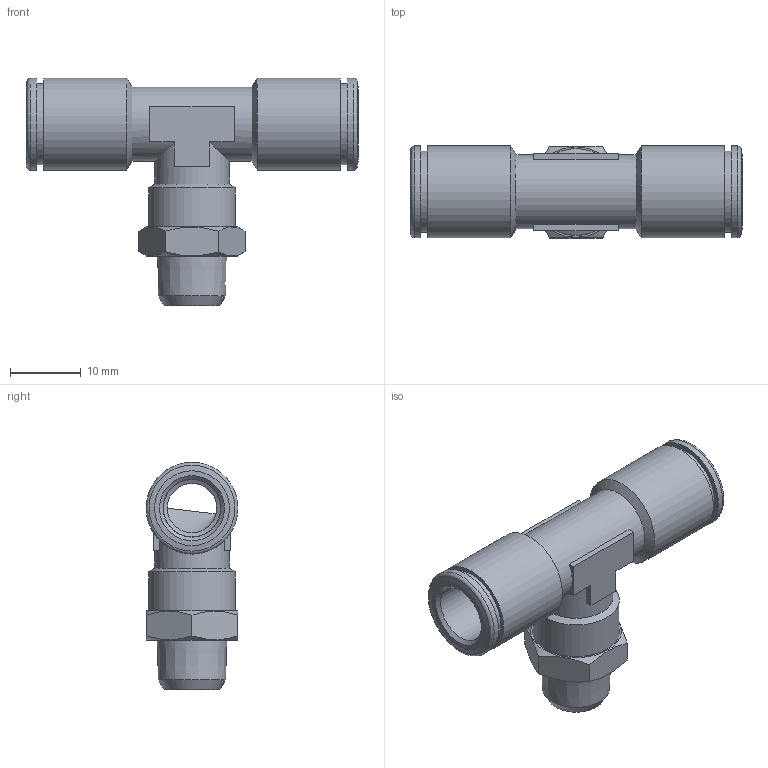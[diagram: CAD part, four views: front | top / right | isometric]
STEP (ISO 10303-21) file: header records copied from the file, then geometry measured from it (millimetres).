
FILE_DESCRIPTION(/* description */ (''),/* implementation_level */ '2;1');
FILE_NAME(/* name */ '202055-ES_STX020K_8_R18_14.06.16',/* time_stamp */ '2016-06-14T09:27:47+02:00',/* author */ (''),/* organization */ (''),/* preprocessor_version */ 'ST-DEVELOPER v14',/* originating_system */ 'HiCAD 2013 1802.4 Build 509',/* authorisation */ '');
FILE_SCHEMA (('AUTOMOTIVE_DESIGN { 1 0 10303 214 1 1 1 1 }'));
Length unit declared in the file: millimetre
Products named in the file (5): Root; 214625-1-N2; R202005-ES-N1-N2; DR8-1_NEU
Assembly tree (4 placements, depth 2):
  Root
    214625-1-N2
    R202005-ES-N1-N2
    DR8-1_NEU
    DR8-1_NEU
Bounding box: 47 x 13 x 32.2 mm (x, y, z)
Volume: 4114 mm3; surface area: 6206 mm2
Topology: 4 solids, 4 shells, 96 faces, 203 edges, 124 vertices
Faces by surface type: plane 41, cone 27, cylinder 26, torus 2
Full cylindrical faces by diameter (mm): 5.5 x1, 7 x2, 8.1 x2, 8.2 x2, 9 x2, 10.1 x4, 10.5 x2, 11 x2, 11.5 x2, 11.6 x2, 12.3 x1, 13 x4
Entity records: 3860 total; most frequent: DIRECTION 440, CARTESIAN_POINT 361, PRESENTATION_STYLE_ASSIGNMENT 300, OVER_RIDING_STYLED_ITEM 296, COLOUR_RGB 282, DRAUGHTING_PRE_DEFINED_CURVE_FONT 280, CURVE_STYLE 280, ORIENTED_EDGE 280
